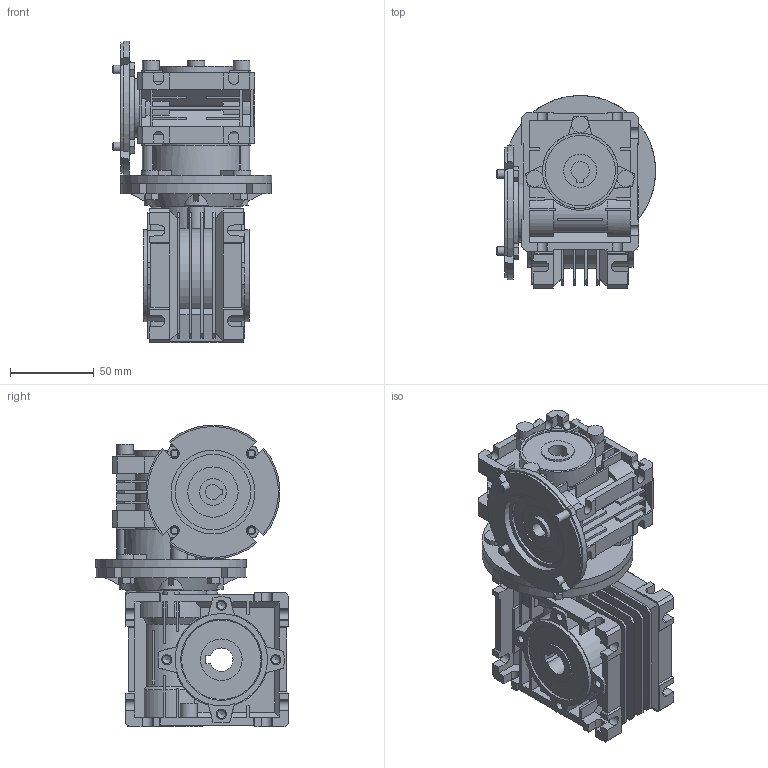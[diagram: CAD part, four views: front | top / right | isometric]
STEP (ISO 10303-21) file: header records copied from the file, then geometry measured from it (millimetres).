
FILE_DESCRIPTION(/* description */ ('STEP AP214'),/* implementation_level */ '2;1');
FILE_NAME(/* name */ 'NMRV-NMRV025-030100 (10x10)412114NO11NO00NO---(--------)',/* time_stamp */ '2024-10-18T10:33:13+02:00',/* author */ ('License CC BY-ND 4.0'),/* organization */ ('CADENAS'),/* preprocessor_version */ 'ST-DEVELOPER v19.3',/* originating_system */ 'PARTsolutions',/* authorisation */ ' ');
FILE_SCHEMA (('AUTOMOTIVE_DESIGN {1 0 10303 214 3 1 1}'));
Length unit declared in the file: millimetre
Products named in the file (14): NMRV-NMRV025-030100 (10x10)412114NO11NO00NO---(--------); 025-030100 (10x10)41211114No11No00NO---(--------)-d; 025-030100 (10x10)412114No11No00NO---d1; 025-030100 (10x10)412114No11No00T0561-d1; Gear unit 30; 030-14 (63)alc-n; VB 030-09 (9); Gear unit 25; 025-11 (50)alc-n; FT 025-030; 30-63 B14; VB 025-09 (9); 25-56 B14; Screw - M6x54
Assembly tree (16 placements, depth 2):
  NMRV-NMRV025-030100 (10x10)412114NO11NO00NO---(--------)
    025-030100 (10x10)41211114No11No00NO---(--------)-d
    025-030100 (10x10)412114No11No00NO---d1
    025-030100 (10x10)412114No11No00T0561-d1  x2
    Gear unit 30
    030-14 (63)alc-n
    VB 030-09 (9)
    Gear unit 25
    025-11 (50)alc-n
    FT 025-030
    30-63 B14
    VB 025-09 (9)
    25-56 B14
    Screw - M6x54  x3
Bounding box: 95 x 115 x 179.88 mm (x, y, z)
Volume: 615475.9 mm3; surface area: 209213.8 mm2
Topology: 12 solids, 19 shells, 1407 faces, 3769 edges, 2471 vertices
Faces by surface type: plane 1068, cylinder 288, cone 51
Full cylindrical faces by diameter (mm): 2.031 x3, 3.545 x3, 4.65 x3, 4.917 x8, 5 x8, 6 x3, 6.5 x3, 10 x7, 16 x2, 19 x2, 19.8 x2, 22 x1, 24.8 x2, 28 x1, 30 x4, 32 x1, 35 x1, 37 x1, 38 x1, 42 x1, 45 x3, 50 x1, 55 x2, 60 x2, 90 x1
Entity records: 52603 total; most frequent: CARTESIAN_POINT 7856, ORIENTED_EDGE 7274, DIRECTION 7094, EDGE_CURVE 3637, LINE 2816, VECTOR 2816, VERTEX_POINT 2442, AXIS2_PLACEMENT_3D 2139
